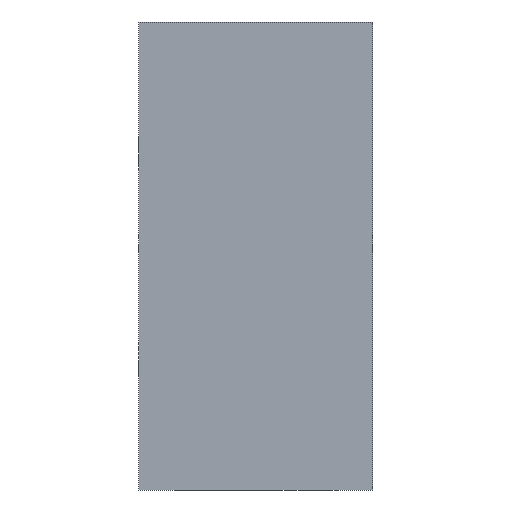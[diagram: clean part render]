
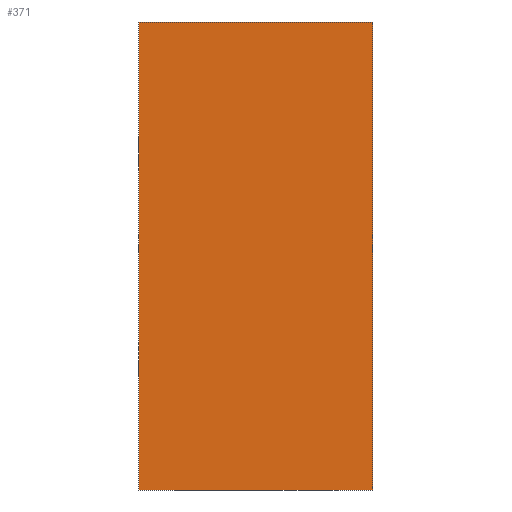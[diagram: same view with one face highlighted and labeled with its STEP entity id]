
A CAD part, front view. The second image highlights one B-rep face of the part: STEP entity #371.
In plain terms, the highlighted planar face has unit normal (0, -1, 0).
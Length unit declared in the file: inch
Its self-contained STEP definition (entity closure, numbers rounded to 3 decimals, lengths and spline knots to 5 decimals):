
#371 = ADVANCED_FACE ( 'NONE', ( #1267 ), #624, .T. ) ;
#481 = EDGE_CURVE ( 'NONE', #2562, #2567, #1682, .T. ) ;
#619 = CARTESIAN_POINT ( 'NONE',  ( -1., -1., -4. ) ) ;
#624 = PLANE ( 'NONE',  #2603 ) ;
#627 = DIRECTION ( 'NONE',  ( 0., -1., 0. ) ) ;
#628 = DIRECTION ( 'NONE',  ( 0., 0., -1. ) ) ;
#1060 = CARTESIAN_POINT ( 'NONE',  ( -1., -1., -4. ) ) ;
#1061 = DIRECTION ( 'NONE',  ( 0., 0., 1. ) ) ;
#1169 = LINE ( 'NONE', #2012, #1176 ) ;
#1176 = VECTOR ( 'NONE', #2016, 39.37008 ) ;
#1267 = FACE_OUTER_BOUND ( 'NONE', #2203, .T. ) ;
#1508 = VECTOR ( 'NONE', #2673, 39.37008 ) ;
#1514 = LINE ( 'NONE', #2672, #1508 ) ;
#1572 = ORIENTED_EDGE ( 'NONE', *, *, #1892, .F. ) ;
#1573 = ORIENTED_EDGE ( 'NONE', *, *, #3243, .F. ) ;
#1682 = LINE ( 'NONE', #3031, #1687 ) ;
#1687 = VECTOR ( 'NONE', #3035, 39.37008 ) ;
#1700 = EDGE_CURVE ( 'NONE', #2561, #2562, #1514, .T. ) ;
#1821 = VECTOR ( 'NONE', #1061, 39.37008 ) ;
#1825 = LINE ( 'NONE', #1060, #1821 ) ;
#1892 = EDGE_CURVE ( 'NONE', #2560, #2567, #1169, .T. ) ;
#2012 = CARTESIAN_POINT ( 'NONE',  ( -1., -1., 0. ) ) ;
#2016 = DIRECTION ( 'NONE',  ( 1., 0., 0. ) ) ;
#2203 = EDGE_LOOP ( 'NONE', ( #1572, #1573, #2225, #2226 ) ) ;
#2225 = ORIENTED_EDGE ( 'NONE', *, *, #1700, .T. ) ;
#2226 = ORIENTED_EDGE ( 'NONE', *, *, #481, .T. ) ;
#2560 = VERTEX_POINT ( 'NONE', #3113 ) ;
#2561 = VERTEX_POINT ( 'NONE', #3114 ) ;
#2562 = VERTEX_POINT ( 'NONE', #3115 ) ;
#2567 = VERTEX_POINT ( 'NONE', #3120 ) ;
#2603 = AXIS2_PLACEMENT_3D ( 'NONE', #619, #627, #628 ) ;
#2672 = CARTESIAN_POINT ( 'NONE',  ( -1., -1., -4. ) ) ;
#2673 = DIRECTION ( 'NONE',  ( 1., 0., 0. ) ) ;
#3031 = CARTESIAN_POINT ( 'NONE',  ( 1., -1., -4. ) ) ;
#3035 = DIRECTION ( 'NONE',  ( 0., 0., 1. ) ) ;
#3113 = CARTESIAN_POINT ( 'NONE',  ( -1., -1., 0. ) ) ;
#3114 = CARTESIAN_POINT ( 'NONE',  ( -1., -1., -4. ) ) ;
#3115 = CARTESIAN_POINT ( 'NONE',  ( 1., -1., -4. ) ) ;
#3120 = CARTESIAN_POINT ( 'NONE',  ( 1., -1., 0. ) ) ;
#3243 = EDGE_CURVE ( 'NONE', #2561, #2560, #1825, .T. ) ;
